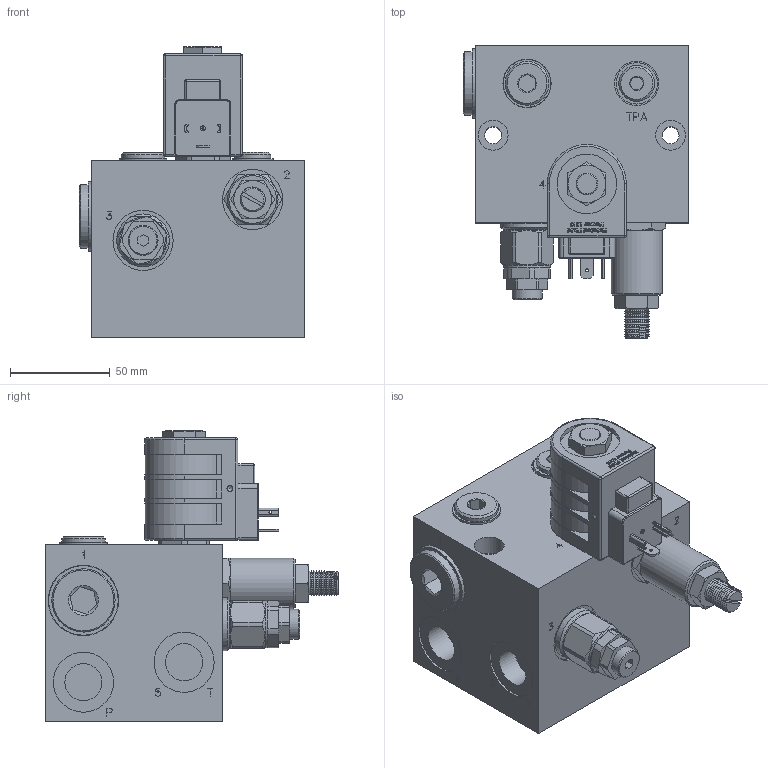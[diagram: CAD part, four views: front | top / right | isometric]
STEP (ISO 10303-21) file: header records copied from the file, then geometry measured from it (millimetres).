
FILE_DESCRIPTION(/* description */ ('Unknown'),/* implementation_level */ '2;1');
FILE_NAME(/* name */ 'RF LB5089',/* time_stamp */ '2022-11-07T16:30:58+00:00',/* author */ ('Unknown'),/* organization */ ('Unknown'),/* preprocessor_version */ 'ST-DEVELOPER v18.1',/* originating_system */ 'Solid Edge',/* authorisation */ 'Unknown');
FILE_SCHEMA (('AUTOMOTIVE_DESIGN {1 0 10303 214 3 1 1}'));
Length unit declared in the file: millimetre
Products named in the file (22): RF 5089_general; M-RF5089X; PT-SLBI034; PT-PLGAH034B; V-LFPFIT00G038180; LCV-VUB1G012-vis; PT-SLBI038; PT-PLGAH038B; D-DES2A00; V-RVSOS100G; V-RVSO NOSE; VIS-RVSO-BODY; PT-OR-3-910-N90A; PT-OR-2-014-N70A; PT-BK-A-08-014A; D-DENVB00; D-DHC24; DHC-Body; DHC-Disc; PT-EL-HC-TerminalConnectors; PT-SLBI014; PT-PLGAH014B
Assembly tree (23 placements, depth 3):
  RF 5089_general
    M-RF5089X
    PT-SLBI034
    PT-PLGAH034B
    V-LFPFIT00G038180
    LCV-VUB1G012-vis
    PT-SLBI038
    PT-PLGAH038B
    D-DES2A00
    V-RVSOS100G
      V-RVSO NOSE
      VIS-RVSO-BODY
      PT-OR-3-910-N90A
      PT-OR-2-014-N70A
      PT-BK-A-08-014A  x2
    D-DENVB00
    D-DHC24
      DHC-Body
      DHC-Disc  x2
      PT-EL-HC-TerminalConnectors
    PT-SLBI014
    PT-PLGAH014B
Bounding box: 112.9 x 146.72 x 146.31 mm (x, y, z)
Volume: 983503.6 mm3; surface area: 124143.9 mm2
Topology: 31 solids, 31 shells, 1614 faces, 4067 edges, 2623 vertices
Faces by surface type: plane 1021, cylinder 223, cone 216, bspline 118, torus 30, sphere 6
Full cylindrical faces by diameter (mm): 0.1 x9, 0.5 x1, 0.711 x1, 1 x3, 1.5 x3, 2.18 x1, 2.5 x7, 3 x16, 3.454 x12, 4.5 x1, 5 x6, 7.95 x2, 8.5 x4, 9 x1, 9.525 x1, 9.563 x1, 10.668 x1, 10.973 x1, 10.998 x1, 11.125 x1, 11.445 x1, 12.586 x1, 12.675 x1, 12.7 x3, 12.992 x2, 13 x1, 13.043 x3, 13.135 x1, 13.2 x1, 13.3 x1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
Entity records: 47127 total; most frequent: CARTESIAN_POINT 11868, ORIENTED_EDGE 7290, DIRECTION 5803, EDGE_CURVE 3645, VERTEX_POINT 2531, AXIS2_PLACEMENT_3D 2174, FACE_BOUND 2110, EDGE_LOOP 2098
